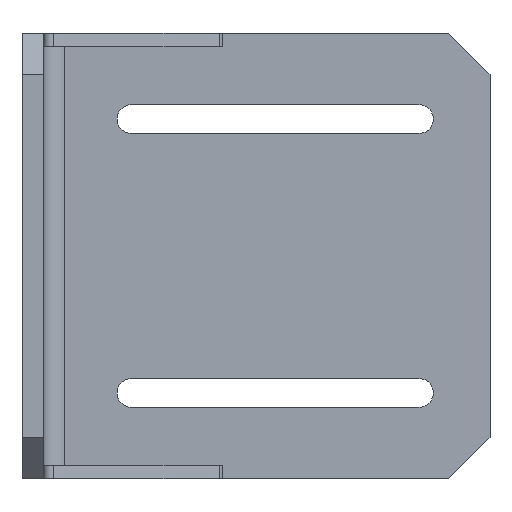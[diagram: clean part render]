
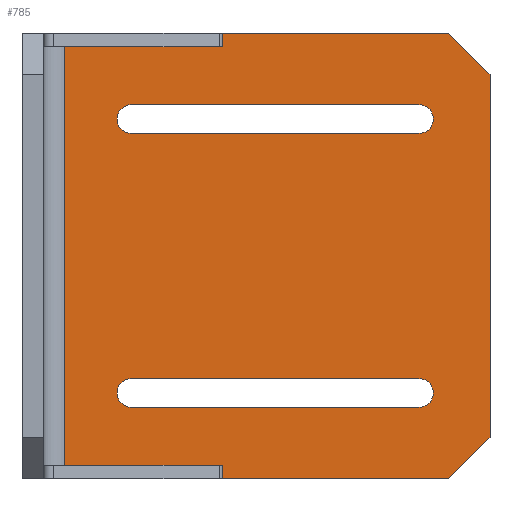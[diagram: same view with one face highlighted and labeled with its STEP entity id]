
A CAD part, left-side view. The second image highlights one B-rep face of the part: STEP entity #785.
In plain terms, the highlighted planar face has unit normal (-1, 0, 0).
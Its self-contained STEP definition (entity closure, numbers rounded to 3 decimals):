
#20=FACE_BOUND('',#125,.T.);
#21=FACE_BOUND('',#126,.T.);
#38=CIRCLE('',#857,2.1);
#39=CIRCLE('',#858,2.1);
#40=CIRCLE('',#859,2.1);
#41=CIRCLE('',#860,2.1);
#80=FACE_OUTER_BOUND('',#124,.T.);
#124=EDGE_LOOP('',(#566,#567,#568,#569,#570,#571,#572,#573,#574,#575,#576,
#577,#578,#579));
#125=EDGE_LOOP('',(#580,#581,#582,#583));
#126=EDGE_LOOP('',(#584,#585,#586,#587));
#167=LINE('',#1141,#252);
#171=LINE('',#1153,#256);
#177=LINE('',#1168,#262);
#189=LINE('',#1203,#274);
#190=LINE('',#1205,#275);
#191=LINE('',#1207,#276);
#192=LINE('',#1209,#277);
#193=LINE('',#1211,#278);
#194=LINE('',#1213,#279);
#195=LINE('',#1215,#280);
#196=LINE('',#1217,#281);
#197=LINE('',#1219,#282);
#198=LINE('',#1221,#283);
#199=LINE('',#1222,#284);
#200=LINE('',#1227,#285);
#201=LINE('',#1230,#286);
#202=LINE('',#1235,#287);
#203=LINE('',#1238,#288);
#252=VECTOR('',#915,10.);
#256=VECTOR('',#925,10.);
#262=VECTOR('',#941,10.);
#274=VECTOR('',#967,10.);
#275=VECTOR('',#968,10.);
#276=VECTOR('',#969,10.);
#277=VECTOR('',#970,10.);
#278=VECTOR('',#971,10.);
#279=VECTOR('',#972,10.);
#280=VECTOR('',#973,10.);
#281=VECTOR('',#974,10.);
#282=VECTOR('',#975,10.);
#283=VECTOR('',#976,10.);
#284=VECTOR('',#977,10.);
#285=VECTOR('',#980,10.);
#286=VECTOR('',#983,10.);
#287=VECTOR('',#986,10.);
#288=VECTOR('',#989,10.);
#337=VERTEX_POINT('',#1138);
#338=VERTEX_POINT('',#1140);
#340=VERTEX_POINT('',#1146);
#343=VERTEX_POINT('',#1151);
#363=VERTEX_POINT('',#1202);
#364=VERTEX_POINT('',#1204);
#365=VERTEX_POINT('',#1206);
#366=VERTEX_POINT('',#1208);
#367=VERTEX_POINT('',#1210);
#368=VERTEX_POINT('',#1212);
#369=VERTEX_POINT('',#1214);
#370=VERTEX_POINT('',#1216);
#371=VERTEX_POINT('',#1218);
#372=VERTEX_POINT('',#1220);
#373=VERTEX_POINT('',#1223);
#374=VERTEX_POINT('',#1224);
#375=VERTEX_POINT('',#1226);
#376=VERTEX_POINT('',#1228);
#377=VERTEX_POINT('',#1231);
#378=VERTEX_POINT('',#1232);
#379=VERTEX_POINT('',#1234);
#380=VERTEX_POINT('',#1236);
#411=EDGE_CURVE('',#338,#337,#167,.T.);
#417=EDGE_CURVE('',#343,#340,#171,.T.);
#425=EDGE_CURVE('',#343,#338,#177,.T.);
#442=EDGE_CURVE('',#337,#363,#189,.T.);
#443=EDGE_CURVE('',#363,#364,#190,.T.);
#444=EDGE_CURVE('',#364,#365,#191,.T.);
#445=EDGE_CURVE('',#365,#366,#192,.T.);
#446=EDGE_CURVE('',#366,#367,#193,.T.);
#447=EDGE_CURVE('',#368,#367,#194,.T.);
#448=EDGE_CURVE('',#368,#369,#195,.T.);
#449=EDGE_CURVE('',#369,#370,#196,.T.);
#450=EDGE_CURVE('',#370,#371,#197,.T.);
#451=EDGE_CURVE('',#371,#372,#198,.T.);
#452=EDGE_CURVE('',#372,#340,#199,.T.);
#453=EDGE_CURVE('',#373,#374,#38,.T.);
#454=EDGE_CURVE('',#374,#375,#200,.T.);
#455=EDGE_CURVE('',#375,#376,#39,.T.);
#456=EDGE_CURVE('',#376,#373,#201,.T.);
#457=EDGE_CURVE('',#377,#378,#40,.T.);
#458=EDGE_CURVE('',#378,#379,#202,.T.);
#459=EDGE_CURVE('',#379,#380,#41,.T.);
#460=EDGE_CURVE('',#380,#377,#203,.T.);
#566=ORIENTED_EDGE('',*,*,#417,.F.);
#567=ORIENTED_EDGE('',*,*,#425,.T.);
#568=ORIENTED_EDGE('',*,*,#411,.T.);
#569=ORIENTED_EDGE('',*,*,#442,.T.);
#570=ORIENTED_EDGE('',*,*,#443,.T.);
#571=ORIENTED_EDGE('',*,*,#444,.T.);
#572=ORIENTED_EDGE('',*,*,#445,.T.);
#573=ORIENTED_EDGE('',*,*,#446,.T.);
#574=ORIENTED_EDGE('',*,*,#447,.F.);
#575=ORIENTED_EDGE('',*,*,#448,.T.);
#576=ORIENTED_EDGE('',*,*,#449,.T.);
#577=ORIENTED_EDGE('',*,*,#450,.T.);
#578=ORIENTED_EDGE('',*,*,#451,.T.);
#579=ORIENTED_EDGE('',*,*,#452,.T.);
#580=ORIENTED_EDGE('',*,*,#453,.T.);
#581=ORIENTED_EDGE('',*,*,#454,.T.);
#582=ORIENTED_EDGE('',*,*,#455,.T.);
#583=ORIENTED_EDGE('',*,*,#456,.T.);
#584=ORIENTED_EDGE('',*,*,#457,.T.);
#585=ORIENTED_EDGE('',*,*,#458,.T.);
#586=ORIENTED_EDGE('',*,*,#459,.T.);
#587=ORIENTED_EDGE('',*,*,#460,.T.);
#759=PLANE('',#856);
#785=ADVANCED_FACE('',(#80,#20,#21),#759,.F.);
#856=AXIS2_PLACEMENT_3D('',#1201,#965,#966);
#857=AXIS2_PLACEMENT_3D('',#1225,#978,#979);
#858=AXIS2_PLACEMENT_3D('',#1229,#981,#982);
#859=AXIS2_PLACEMENT_3D('',#1233,#984,#985);
#860=AXIS2_PLACEMENT_3D('',#1237,#987,#988);
#915=DIRECTION('',(0.,0.,1.));
#925=DIRECTION('',(0.,0.,1.));
#941=DIRECTION('',(0.,1.,0.));
#965=DIRECTION('center_axis',(1.,0.,0.));
#966=DIRECTION('ref_axis',(0.,0.,1.));
#967=DIRECTION('',(0.,1.,0.));
#968=DIRECTION('',(0.,0.,-1.));
#969=DIRECTION('',(0.,-1.,0.));
#970=DIRECTION('',(0.,0.,1.));
#971=DIRECTION('',(0.,-1.,0.));
#972=DIRECTION('',(0.,0.,1.));
#973=DIRECTION('',(0.,-1.,0.));
#974=DIRECTION('',(0.,-0.707,0.707));
#975=DIRECTION('',(0.,0.,1.));
#976=DIRECTION('',(0.,0.707,0.707));
#977=DIRECTION('',(0.,1.,0.));
#978=DIRECTION('center_axis',(1.,0.,0.));
#979=DIRECTION('ref_axis',(0.,0.,1.));
#980=DIRECTION('',(0.,1.,0.));
#981=DIRECTION('center_axis',(1.,0.,0.));
#982=DIRECTION('ref_axis',(0.,0.,
-1.));
#983=DIRECTION('',(0.,-1.,0.));
#984=DIRECTION('center_axis',(1.,0.,0.));
#985=DIRECTION('ref_axis',(0.,0.,1.));
#986=DIRECTION('',(0.,-1.,0.));
#987=DIRECTION('center_axis',(1.,0.,0.));
#988=DIRECTION('ref_axis',(0.,0.,
-1.));
#989=DIRECTION('',(0.,1.,0.));
#1138=CARTESIAN_POINT('',(-0.231,-4.1,32.55));
#1140=CARTESIAN_POINT('',(-0.231,-4.1,30.55));
#1141=CARTESIAN_POINT('',(-0.231,-4.1,16.275));
#1146=CARTESIAN_POINT('',(-0.231,-25.2,32.55));
#1151=CARTESIAN_POINT('',(-0.231,-25.2,30.55));
#1153=CARTESIAN_POINT('',(-0.231,-25.2,32.55));
#1168=CARTESIAN_POINT('',(-0.231,-6.259,30.55));
#1201=CARTESIAN_POINT('Origin',(-0.231,0.581,0.));
#1202=CARTESIAN_POINT('',(-0.231,-3.1,32.55));
#1203=CARTESIAN_POINT('',(-0.231,-59.25,32.55));
#1204=CARTESIAN_POINT('',(-0.231,-3.1,-32.55));
#1205=CARTESIAN_POINT('',(-0.231,-3.1,-16.275));
#1206=CARTESIAN_POINT('',(-0.231,-4.1,-32.55));
#1207=CARTESIAN_POINT('',(-0.231,60.412,-32.55));
#1208=CARTESIAN_POINT('',(-0.231,-4.1,-30.55));
#1209=CARTESIAN_POINT('',(-0.231,-4.1,-16.275));
#1210=CARTESIAN_POINT('',(-0.231,-25.2,-30.55));
#1211=CARTESIAN_POINT('',(-0.231,-6.259,-30.55));
#1212=CARTESIAN_POINT('',(-0.231,-25.2,-32.55));
#1213=CARTESIAN_POINT('',(-0.231,-25.2,-32.55));
#1214=CARTESIAN_POINT('',(-0.231,-59.25,-32.55));
#1215=CARTESIAN_POINT('',(-0.231,60.412,-32.55));
#1216=CARTESIAN_POINT('',(-0.231,-65.25,-26.55));
#1217=CARTESIAN_POINT('',(-0.231,-59.25,-32.55));
#1218=CARTESIAN_POINT('',(-0.231,-65.25,26.55));
#1219=CARTESIAN_POINT('',(-0.231,-65.25,-26.55));
#1220=CARTESIAN_POINT('',(-0.231,-59.25,32.55));
#1221=CARTESIAN_POINT('',(-0.231,-65.25,26.55));
#1222=CARTESIAN_POINT('',(-0.231,-59.25,32.55));
#1223=CARTESIAN_POINT('',(-0.231,-54.88,-17.9));
#1224=CARTESIAN_POINT('',(-0.231,-54.88,-22.1));
#1225=CARTESIAN_POINT('Origin',(-0.231,-54.88,-20.));
#1226=CARTESIAN_POINT('',(-0.231,-12.88,-22.1));
#1227=CARTESIAN_POINT('',(-0.231,-6.15,-22.1));
#1228=CARTESIAN_POINT('',(-0.231,-12.88,-17.9));
#1229=CARTESIAN_POINT('Origin',(-0.231,-12.88,-20.));
#1230=CARTESIAN_POINT('',(-0.231,-27.15,-17.9));
#1231=CARTESIAN_POINT('',(-0.231,-12.88,17.9));
#1232=CARTESIAN_POINT('',(-0.231,-12.88,22.1));
#1233=CARTESIAN_POINT('Origin',(-0.231,-12.88,20.));
#1234=CARTESIAN_POINT('',(-0.231,-54.88,22.1));
#1235=CARTESIAN_POINT('',(-0.231,-27.15,22.1));
#1236=CARTESIAN_POINT('',(-0.231,-54.88,17.9));
#1237=CARTESIAN_POINT('Origin',(-0.231,-54.88,20.));
#1238=CARTESIAN_POINT('',(-0.231,-6.15,17.9));
